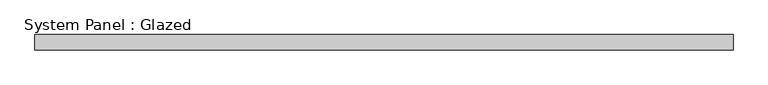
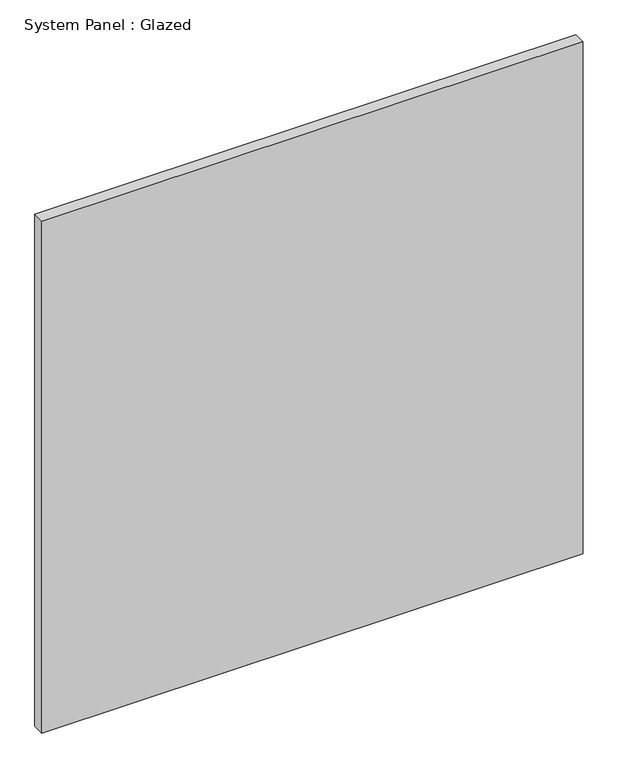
"""IFC4 building model written with IfcOpenShell, lengths in millimetres: plate geometry, System Panel : Glazed."""

from ifc_helpers import new_model, si_unit, origin, origin_with_axes, place, context, project, spatial, polyline, outline, extrude, source, transform, mapped, element, save


def system_panel_glazed_cf62fca3(model_context):
    return source(origin(), model_context, "Body", "SweptSolid", [
        extrude(outline(polyline([(577.85, 19.05), (-577.85, 19.05), (-577.85, 44.45), (577.85, 44.45), (577.85, 19.05)])), origin_with_axes(), (0.0, 0.0, 1.0), 1155.7),
    ])


if __name__ == "__main__":
    model = new_model("IFC4")
    model_context = context("Model", 3, world=origin())
    ifc_project = project(units=[si_unit("LENGTHUNIT", "METRE", prefix="MILLI")], contexts=[model_context])
    site = spatial("IfcSite", under=ifc_project)
    building = spatial("IfcBuilding", under=site)
    placement = place(None, origin())
    system_panel_glazed_shape = system_panel_glazed_cf62fca3(model_context)
    element("IfcPlate", 1, ObjectType="System Panel : Glazed", at=placement, inside=building, context=model_context, shape_type="MappedRepresentation", body=[
        mapped(system_panel_glazed_shape, transform((0.0, 0.0, 0.0), x_axis=(1.0, 0.0, 0.0), y_axis=(0.0, 1.0, 0.0), z_axis=(0.0, 0.0, 1.0))),
    ])
    save(model, "model.ifc")
